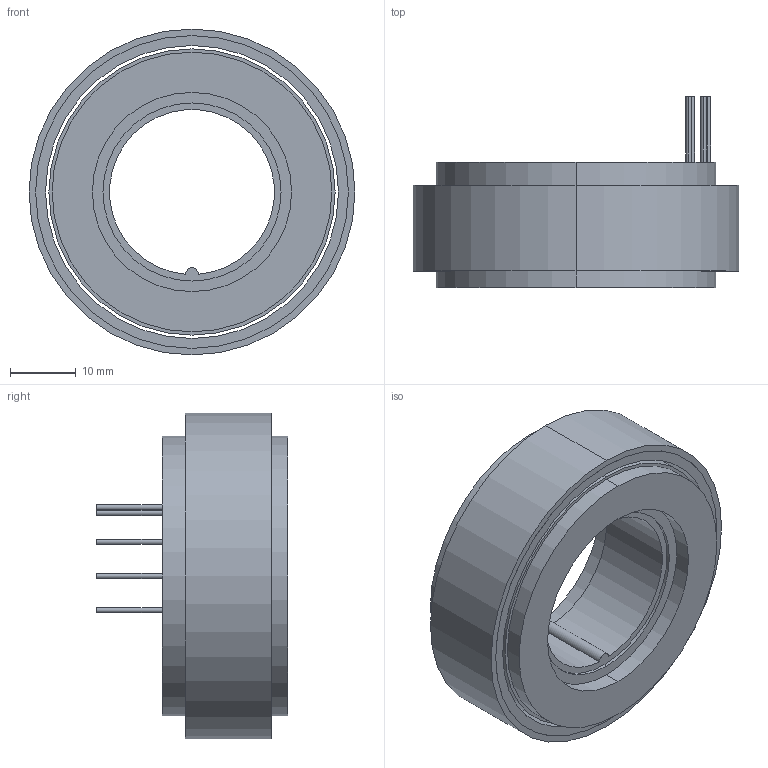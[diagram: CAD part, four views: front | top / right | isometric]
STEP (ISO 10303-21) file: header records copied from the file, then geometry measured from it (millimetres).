
FILE_DESCRIPTION (( 'STEP AP214' ), '1' );
FILE_NAME ('UE4918µç»ú.STEP', '2026-03-11T05:58:59', ( 'Windows User' ), ( 'P R C' ), 'SwSTEP 2.0', 'SolidWorks 2023', '' );
FILE_SCHEMA (( 'AUTOMOTIVE_DESIGN' ));
Length unit declared in the file: millimetre
Products named in the file (1): UE4918电机
Bounding box: 49.4 x 29 x 49.4 mm (x, y, z)
Volume: 21770.2 mm3; surface area: 10854.4 mm2
Topology: 2 solids, 2 shells, 51 faces, 102 edges, 68 vertices
Faces by surface type: cylinder 34, plane 17
Entity records: 1404 total; most frequent: DIRECTION 274, CARTESIAN_POINT 222, ORIENTED_EDGE 204, AXIS2_PLACEMENT_3D 120, EDGE_CURVE 102, VERTEX_POINT 68, CIRCLE 68, EDGE_LOOP 68
